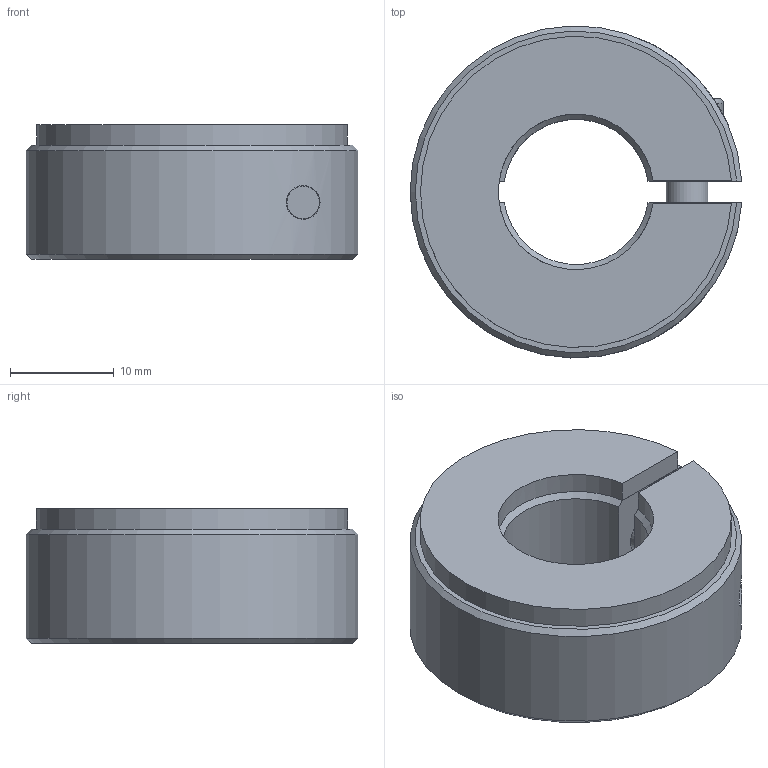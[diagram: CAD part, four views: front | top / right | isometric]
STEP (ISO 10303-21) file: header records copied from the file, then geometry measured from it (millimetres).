
FILE_DESCRIPTION( ( 'STEP AP203' ), '1' );
FILE_NAME( 'C:/Temp/Ganter_Step_05_03_2020/data/3_2/gn7062_3/Semi-split Stainless Steel-Set collar GN 7062.3-32-B14-NI.stp', '2020-03-13T05:40:23', ( 'License CC BY-ND 4.0' ), ( 'CADENAS' ), ' ', 'PARTsolutions', ' ' );
FILE_SCHEMA( ( 'CONFIG_CONTROL_DESIGN' ) );
Length unit declared in the file: millimetre
Products named in the file (1): _Semi-split Stainless Steel-Set collar GN 7062.3-32-B14-NI
Bounding box: 31.97 x 31.98 x 13 mm (x, y, z)
Volume: 7638.5 mm3; surface area: 3728 mm2
Topology: 1 solids, 1 shells, 40 faces, 95 edges, 62 vertices
Faces by surface type: plane 21, cylinder 11, cone 7, torus 1
Full cylindrical faces by diameter (mm): 3.242 x1, 4 x1, 4.4 x1, 7 x1, 7.5 x1
Entity records: 1278 total; most frequent: CARTESIAN_POINT 341, DIRECTION 184, ORIENTED_EDGE 172, EDGE_CURVE 86, AXIS2_PLACEMENT_3D 71, VERTEX_POINT 60, EDGE_LOOP 54, FACE_OUTER_BOUND 46
